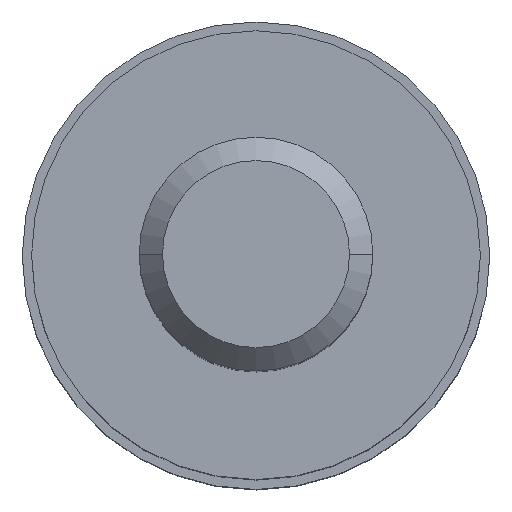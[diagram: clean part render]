
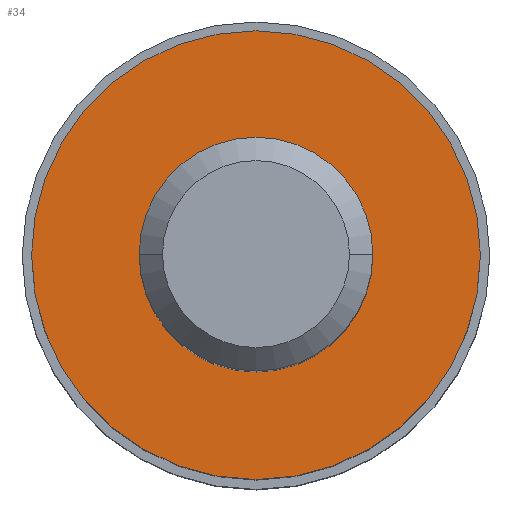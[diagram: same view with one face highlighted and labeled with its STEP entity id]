
A CAD part, top view. The second image highlights one B-rep face of the part: STEP entity #34.
In plain terms, the highlighted planar face has unit normal (0, 0, 1).
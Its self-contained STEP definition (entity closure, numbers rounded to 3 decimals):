
#6 = VERTEX_POINT ( 'NONE', #480 ) ;
#16 = DIRECTION ( 'NONE',  ( -1., 0., 0. ) ) ;
#19 = CARTESIAN_POINT ( 'NONE',  ( 0., 4.8, -13. ) ) ;
#21 = AXIS2_PLACEMENT_3D ( 'NONE', #218, #171, #138 ) ;
#25 = FACE_BOUND ( 'NONE', #37, .T. ) ;
#34 = ADVANCED_FACE ( 'NONE', ( #25, #331 ), #97, .T. ) ;
#37 = EDGE_LOOP ( 'NONE', ( #43, #463 ) ) ;
#43 = ORIENTED_EDGE ( 'NONE', *, *, #498, .T. ) ;
#57 = CIRCLE ( 'NONE', #440, 2.5 ) ;
#63 = CARTESIAN_POINT ( 'NONE',  ( 4.8, 0., -13. ) ) ;
#79 = EDGE_LOOP ( 'NONE', ( #413, #457 ) ) ;
#97 = PLANE ( 'NONE',  #119 ) ;
#100 = CARTESIAN_POINT ( 'NONE',  ( -2.5, 0., -13. ) ) ;
#119 = AXIS2_PLACEMENT_3D ( 'NONE', #19, #299, #267 ) ;
#138 = DIRECTION ( 'NONE',  ( -1., 0., 0. ) ) ;
#147 = CARTESIAN_POINT ( 'NONE',  ( 0., 0., -13. ) ) ;
#171 = DIRECTION ( 'NONE',  ( 0., 0., -1. ) ) ;
#177 = DIRECTION ( 'NONE',  ( -1., 0., 0. ) ) ;
#218 = CARTESIAN_POINT ( 'NONE',  ( 0., 0., -13. ) ) ;
#228 = VERTEX_POINT ( 'NONE', #351 ) ;
#257 = CARTESIAN_POINT ( 'NONE',  ( 0., 0., -13. ) ) ;
#266 = DIRECTION ( 'NONE',  ( 0., 0., -1. ) ) ;
#267 = DIRECTION ( 'NONE',  ( 1., 0., 0. ) ) ;
#272 = CIRCLE ( 'NONE', #21, 4.8 ) ;
#299 = DIRECTION ( 'NONE',  ( 0., 0., 1. ) ) ;
#309 = CIRCLE ( 'NONE', #380, 2.5 ) ;
#331 = FACE_OUTER_BOUND ( 'NONE', #79, .T. ) ;
#333 = DIRECTION ( 'NONE',  ( 0., 0., -1. ) ) ;
#346 = CARTESIAN_POINT ( 'NONE',  ( 0., 0., -13. ) ) ;
#351 = CARTESIAN_POINT ( 'NONE',  ( -4.8, 0., -13. ) ) ;
#380 = AXIS2_PLACEMENT_3D ( 'NONE', #346, #266, #419 ) ;
#391 = VERTEX_POINT ( 'NONE', #63 ) ;
#399 = DIRECTION ( 'NONE',  ( 0., 0., -1. ) ) ;
#413 = ORIENTED_EDGE ( 'NONE', *, *, #477, .F. ) ;
#419 = DIRECTION ( 'NONE',  ( -1., 0., 0. ) ) ;
#424 = VERTEX_POINT ( 'NONE', #100 ) ;
#440 = AXIS2_PLACEMENT_3D ( 'NONE', #147, #399, #16 ) ;
#453 = EDGE_CURVE ( 'NONE', #391, #228, #483, .T. ) ;
#457 = ORIENTED_EDGE ( 'NONE', *, *, #453, .F. ) ;
#463 = ORIENTED_EDGE ( 'NONE', *, *, #470, .T. ) ;
#464 = AXIS2_PLACEMENT_3D ( 'NONE', #257, #333, #177 ) ;
#470 = EDGE_CURVE ( 'NONE', #6, #424, #57, .T. ) ;
#477 = EDGE_CURVE ( 'NONE', #228, #391, #272, .T. ) ;
#480 = CARTESIAN_POINT ( 'NONE',  ( 2.5, 0., -13. ) ) ;
#483 = CIRCLE ( 'NONE', #464, 4.8 ) ;
#498 = EDGE_CURVE ( 'NONE', #424, #6, #309, .T. ) ;
